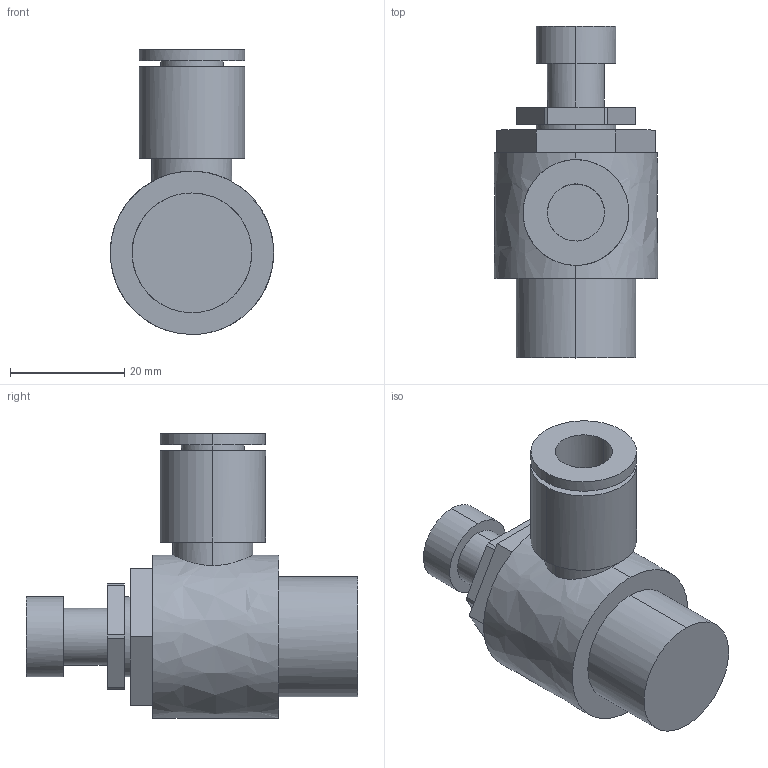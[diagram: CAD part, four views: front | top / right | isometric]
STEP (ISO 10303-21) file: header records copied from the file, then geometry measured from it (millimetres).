
FILE_DESCRIPTION (( 'STEP AP214' ), '1' );
FILE_NAME ('AS4201FPG-04-10.STEP', '2023-03-08T10:30:35', ( 'Windows User' ), ( 'P R C' ), 'SwSTEP 2.0', 'SolidWorks 2019', '' );
FILE_SCHEMA (( 'AUTOMOTIVE_DESIGN' ));
Length unit declared in the file: millimetre
Products named in the file (1): AS4201FPG-04-10
Bounding box: 28.59 x 58.1 x 49.9 mm (x, y, z)
Volume: 27121.9 mm3; surface area: 8222.8 mm2
Topology: 1 solids, 1 shells, 51 faces, 117 edges, 78 vertices
Faces by surface type: bspline 26, plane 25
Entity records: 2166 total; most frequent: CARTESIAN_POINT 1333, ORIENTED_EDGE 234, EDGE_CURVE 117, B_SPLINE_CURVE_WITH_KNOTS 90, VERTEX_POINT 78, EDGE_LOOP 61, DIRECTION 52, ADVANCED_FACE 51
